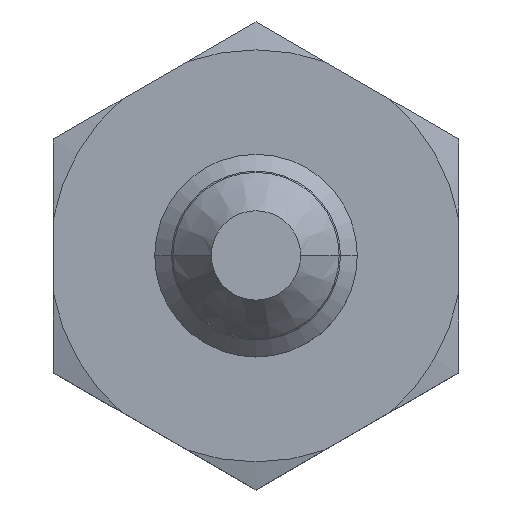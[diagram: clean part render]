
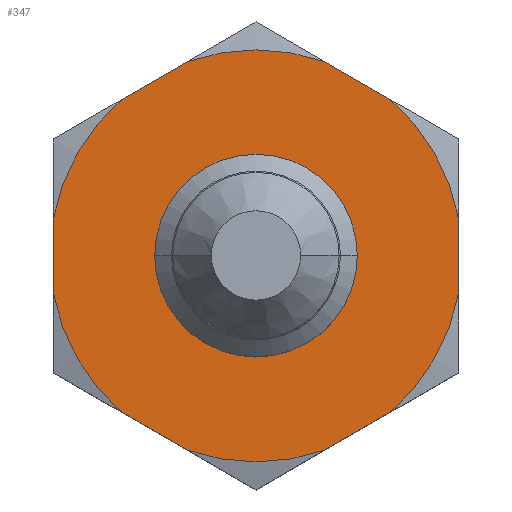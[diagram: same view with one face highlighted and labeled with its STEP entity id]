
A CAD part, top view. The second image highlights one B-rep face of the part: STEP entity #347.
In plain terms, the highlighted planar face has unit normal (0, 0, 1).
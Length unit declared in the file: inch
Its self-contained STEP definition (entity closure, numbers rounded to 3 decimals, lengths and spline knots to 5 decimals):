
#9 = VERTEX_POINT ( 'NONE', #572 ) ;
#10 = EDGE_CURVE ( 'NONE', #9, #322, #574, .T. ) ;
#88 = VERTEX_POINT ( 'NONE', #759 ) ;
#195 = VERTEX_POINT ( 'NONE', #807 ) ;
#198 = EDGE_CURVE ( 'NONE', #88, #195, #800, .T. ) ;
#232 = ORIENTED_EDGE ( 'NONE', *, *, #477, .T. ) ;
#233 = ORIENTED_EDGE ( 'NONE', *, *, #234, .F. ) ;
#234 = EDGE_CURVE ( 'NONE', #292, #475, #1120, .T. ) ;
#289 = VERTEX_POINT ( 'NONE', #1054 ) ;
#291 = EDGE_CURVE ( 'NONE', #292, #289, #1056, .T. ) ;
#292 = VERTEX_POINT ( 'NONE', #1046 ) ;
#322 = VERTEX_POINT ( 'NONE', #1124 ) ;
#326 = ORIENTED_EDGE ( 'NONE', *, *, #291, .T. ) ;
#327 = ORIENTED_EDGE ( 'NONE', *, *, #328, .F. ) ;
#328 = EDGE_CURVE ( 'NONE', #507, #289, #1156, .T. ) ;
#329 = ORIENTED_EDGE ( 'NONE', *, *, #509, .T. ) ;
#330 = ORIENTED_EDGE ( 'NONE', *, *, #331, .F. ) ;
#331 = EDGE_CURVE ( 'NONE', #486, #506, #1152, .T. ) ;
#332 = ORIENTED_EDGE ( 'NONE', *, *, #485, .T. ) ;
#333 = ORIENTED_EDGE ( 'NONE', *, *, #334, .T. ) ;
#334 = EDGE_CURVE ( 'NONE', #483, #9, #1206, .T. ) ;
#335 = ORIENTED_EDGE ( 'NONE', *, *, #10, .T. ) ;
#336 = ORIENTED_EDGE ( 'NONE', *, *, #337, .F. ) ;
#337 = EDGE_CURVE ( 'NONE', #457, #322, #1201, .T. ) ;
#338 = ORIENTED_EDGE ( 'NONE', *, *, #456, .T. ) ;
#347 = ADVANCED_FACE ( 'NONE', ( #1185, #1184 ), #1183, .F. ) ;
#348 = EDGE_LOOP ( 'NONE', ( #349, #351 ) ) ;
#349 = ORIENTED_EDGE ( 'NONE', *, *, #350, .T. ) ;
#350 = EDGE_CURVE ( 'NONE', #195, #88, #1178, .T. ) ;
#351 = ORIENTED_EDGE ( 'NONE', *, *, #198, .T. ) ;
#352 = EDGE_LOOP ( 'NONE', ( #353, #232, #233, #326, #327, #329, #330, #332, #333, #335, #336, #338 ) ) ;
#353 = ORIENTED_EDGE ( 'NONE', *, *, #354, .F. ) ;
#354 = EDGE_CURVE ( 'NONE', #437, #454, #1237, .T. ) ;
#437 = VERTEX_POINT ( 'NONE', #1424 ) ;
#454 = VERTEX_POINT ( 'NONE', #1437 ) ;
#456 = EDGE_CURVE ( 'NONE', #457, #454, #1439, .T. ) ;
#457 = VERTEX_POINT ( 'NONE', #1265 ) ;
#475 = VERTEX_POINT ( 'NONE', #1364 ) ;
#477 = EDGE_CURVE ( 'NONE', #437, #475, #1366, .T. ) ;
#483 = VERTEX_POINT ( 'NONE', #1288 ) ;
#485 = EDGE_CURVE ( 'NONE', #486, #483, #1290, .T. ) ;
#486 = VERTEX_POINT ( 'NONE', #1280 ) ;
#506 = VERTEX_POINT ( 'NONE', #1464 ) ;
#507 = VERTEX_POINT ( 'NONE', #1466 ) ;
#509 = EDGE_CURVE ( 'NONE', #507, #506, #1459, .T. ) ;
#565 = DIRECTION ( 'NONE',  ( -0.866, 0.5, 0. ) ) ;
#566 = VECTOR ( 'NONE', #565, 39.37008 ) ;
#567 = CARTESIAN_POINT ( 'NONE',  ( 0.4375, 0.25259, 0. ) ) ;
#572 = CARTESIAN_POINT ( 'NONE',  ( 0.28921, 0.33821, 0. ) ) ;
#574 = LINE ( 'NONE', #567, #566 ) ;
#759 = CARTESIAN_POINT ( 'NONE',  ( -0.182, 0., 0. ) ) ;
#797 = DIRECTION ( 'NONE',  ( -1., 0., 0. ) ) ;
#798 = DIRECTION ( 'NONE',  ( 0., 0., -1. ) ) ;
#799 = AXIS2_PLACEMENT_3D ( 'NONE', #806, #798, #797 ) ;
#800 = CIRCLE ( 'NONE', #799, 0.182 ) ;
#806 = CARTESIAN_POINT ( 'NONE',  ( 0., 0., 0. ) ) ;
#807 = CARTESIAN_POINT ( 'NONE',  ( 0.182, 0., 0. ) ) ;
#1046 = CARTESIAN_POINT ( 'NONE',  ( -0.28921, -0.33821, 0. ) ) ;
#1047 = DIRECTION ( 'NONE',  ( 0.866, -0.5, 0. ) ) ;
#1048 = VECTOR ( 'NONE', #1047, 39.37008 ) ;
#1049 = CARTESIAN_POINT ( 'NONE',  ( -0.4375, -0.25259, 0. ) ) ;
#1054 = CARTESIAN_POINT ( 'NONE',  ( -0.14829, -0.41956, 0. ) ) ;
#1056 = LINE ( 'NONE', #1049, #1048 ) ;
#1116 = DIRECTION ( 'NONE',  ( -1., 0., 0. ) ) ;
#1117 = DIRECTION ( 'NONE',  ( 0., 0., -1. ) ) ;
#1118 = CARTESIAN_POINT ( 'NONE',  ( 0., 0., 0. ) ) ;
#1119 = AXIS2_PLACEMENT_3D ( 'NONE', #1118, #1117, #1116 ) ;
#1120 = CIRCLE ( 'NONE', #1119, 0.445 ) ;
#1124 = CARTESIAN_POINT ( 'NONE',  ( 0.14829, 0.41956, 0. ) ) ;
#1152 = CIRCLE ( 'NONE', #1210, 0.445 ) ;
#1153 = DIRECTION ( 'NONE',  ( -1., 0., 0. ) ) ;
#1154 = DIRECTION ( 'NONE',  ( 0., 0., -1. ) ) ;
#1155 = AXIS2_PLACEMENT_3D ( 'NONE', #1163, #1154, #1153 ) ;
#1156 = CIRCLE ( 'NONE', #1155, 0.445 ) ;
#1163 = CARTESIAN_POINT ( 'NONE',  ( 0., 0., 0. ) ) ;
#1178 = CIRCLE ( 'NONE', #1241, 0.182 ) ;
#1179 = DIRECTION ( 'NONE',  ( -1., 0., 0. ) ) ;
#1180 = DIRECTION ( 'NONE',  ( 0., 0., -1. ) ) ;
#1181 = CARTESIAN_POINT ( 'NONE',  ( 0., 0., 0. ) ) ;
#1182 = AXIS2_PLACEMENT_3D ( 'NONE', #1181, #1180, #1179 ) ;
#1183 = PLANE ( 'NONE',  #1182 ) ;
#1184 = FACE_OUTER_BOUND ( 'NONE', #352, .T. ) ;
#1185 = FACE_BOUND ( 'NONE', #348, .T. ) ;
#1197 = DIRECTION ( 'NONE',  ( -1., 0., 0. ) ) ;
#1198 = DIRECTION ( 'NONE',  ( 0., 0., -1. ) ) ;
#1199 = CARTESIAN_POINT ( 'NONE',  ( 0., 0., 0. ) ) ;
#1200 = AXIS2_PLACEMENT_3D ( 'NONE', #1199, #1198, #1197 ) ;
#1201 = CIRCLE ( 'NONE', #1200, 0.445 ) ;
#1202 = DIRECTION ( 'NONE',  ( 1., 0., 0. ) ) ;
#1203 = DIRECTION ( 'NONE',  ( 0., 0., 1. ) ) ;
#1204 = CARTESIAN_POINT ( 'NONE',  ( 0., 0., 0. ) ) ;
#1205 = AXIS2_PLACEMENT_3D ( 'NONE', #1204, #1203, #1202 ) ;
#1206 = CIRCLE ( 'NONE', #1205, 0.445 ) ;
#1207 = DIRECTION ( 'NONE',  ( -1., 0., 0. ) ) ;
#1208 = DIRECTION ( 'NONE',  ( 0., 0., -1. ) ) ;
#1209 = CARTESIAN_POINT ( 'NONE',  ( 0., 0., 0. ) ) ;
#1210 = AXIS2_PLACEMENT_3D ( 'NONE', #1209, #1208, #1207 ) ;
#1233 = DIRECTION ( 'NONE',  ( -1., 0., 0. ) ) ;
#1234 = DIRECTION ( 'NONE',  ( 0., 0., -1. ) ) ;
#1235 = CARTESIAN_POINT ( 'NONE',  ( 0., 0., 0. ) ) ;
#1236 = AXIS2_PLACEMENT_3D ( 'NONE', #1235, #1234, #1233 ) ;
#1237 = CIRCLE ( 'NONE', #1236, 0.445 ) ;
#1238 = DIRECTION ( 'NONE',  ( -1., 0., 0. ) ) ;
#1239 = DIRECTION ( 'NONE',  ( 0., 0., -1. ) ) ;
#1240 = CARTESIAN_POINT ( 'NONE',  ( 0., 0., 0. ) ) ;
#1241 = AXIS2_PLACEMENT_3D ( 'NONE', #1240, #1239, #1238 ) ;
#1265 = CARTESIAN_POINT ( 'NONE',  ( -0.14829, 0.41956, 0. ) ) ;
#1266 = DIRECTION ( 'NONE',  ( -0.866, -0.5, 0. ) ) ;
#1280 = CARTESIAN_POINT ( 'NONE',  ( 0.4375, -0.08136, 0. ) ) ;
#1281 = DIRECTION ( 'NONE',  ( 0., 1., 0. ) ) ;
#1282 = VECTOR ( 'NONE', #1281, 39.37008 ) ;
#1283 = CARTESIAN_POINT ( 'NONE',  ( 0.4375, -0.25259, 0. ) ) ;
#1288 = CARTESIAN_POINT ( 'NONE',  ( 0.4375, 0.08136, 0. ) ) ;
#1290 = LINE ( 'NONE', #1283, #1282 ) ;
#1357 = DIRECTION ( 'NONE',  ( 0., -1., 0. ) ) ;
#1358 = VECTOR ( 'NONE', #1357, 39.37008 ) ;
#1359 = CARTESIAN_POINT ( 'NONE',  ( -0.4375, 0.25259, 0. ) ) ;
#1364 = CARTESIAN_POINT ( 'NONE',  ( -0.4375, -0.08136, 0. ) ) ;
#1366 = LINE ( 'NONE', #1359, #1358 ) ;
#1424 = CARTESIAN_POINT ( 'NONE',  ( -0.4375, 0.08136, 0. ) ) ;
#1431 = VECTOR ( 'NONE', #1266, 39.37008 ) ;
#1432 = CARTESIAN_POINT ( 'NONE',  ( 0., 0.50518, 0. ) ) ;
#1437 = CARTESIAN_POINT ( 'NONE',  ( -0.28921, 0.33821, 0. ) ) ;
#1439 = LINE ( 'NONE', #1432, #1431 ) ;
#1457 = VECTOR ( 'NONE', #1510, 39.37008 ) ;
#1458 = CARTESIAN_POINT ( 'NONE',  ( 0., -0.50518, 0. ) ) ;
#1459 = LINE ( 'NONE', #1458, #1457 ) ;
#1464 = CARTESIAN_POINT ( 'NONE',  ( 0.28921, -0.33821, 0. ) ) ;
#1466 = CARTESIAN_POINT ( 'NONE',  ( 0.14829, -0.41956, 0. ) ) ;
#1510 = DIRECTION ( 'NONE',  ( 0.866, 0.5, 0. ) ) ;
